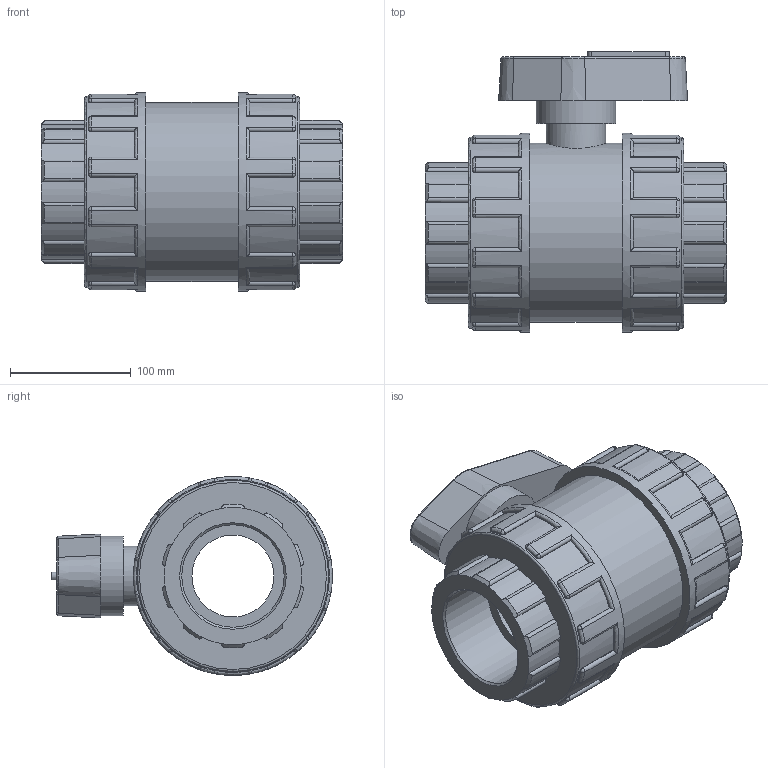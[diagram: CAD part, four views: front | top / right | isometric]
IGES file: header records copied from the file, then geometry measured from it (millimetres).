
Global section: file name: 11241030.ipt; native system: Autodesk Inventor 2015; preprocessor: unknown; author: KIM; date: 20171207.170318; units: millimetre
Bounding box: 250 x 232.88 x 165 mm (x, y, z)
Volume: 3426883.5 mm3; surface area: 250311.8 mm2
Topology: 1 solids, 1 shells, 434 faces, 1085 edges, 662 vertices
Faces by surface type: cylinder 189, plane 114, revolution 59, sphere 48, cone 24
Full cylindrical faces by diameter (mm): 49.5 x1, 66 x1, 148.5 x1, 158.4 x2, 165 x2
